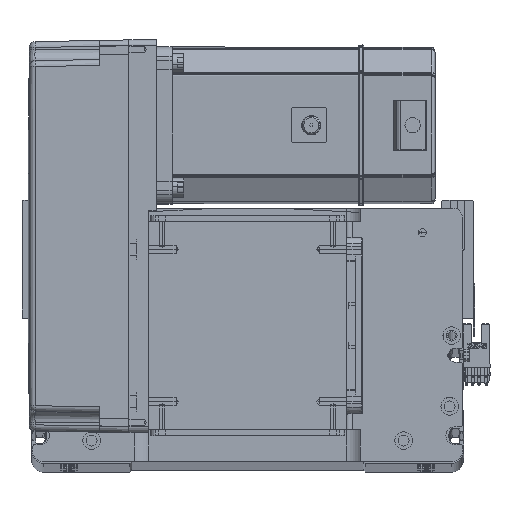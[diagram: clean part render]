
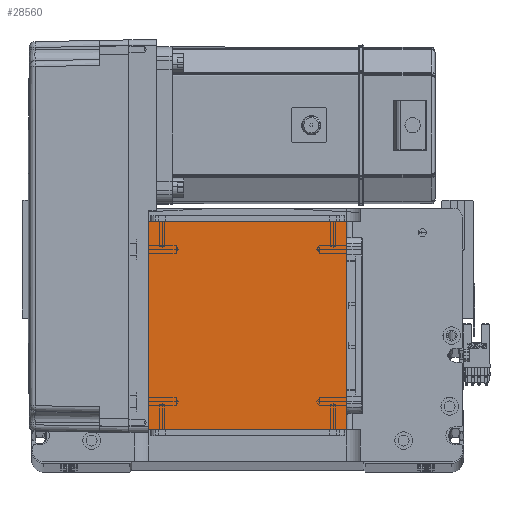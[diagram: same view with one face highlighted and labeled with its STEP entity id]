
A CAD part, top view. The second image highlights one B-rep face of the part: STEP entity #28560.
In plain terms, the highlighted planar face has unit normal (0, 0, 1).
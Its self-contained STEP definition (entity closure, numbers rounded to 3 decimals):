
#23 = DIRECTION ( 'NONE',  ( 0., 1., 0. ) ) ;
#2967 = CARTESIAN_POINT ( 'NONE',  ( -50.5, 122., 115. ) ) ;
#3171 = CARTESIAN_POINT ( 'NONE',  ( -50.5, 16., 115. ) ) ;
#3443 = VECTOR ( 'NONE', #38490, 1000. ) ;
#5118 = DIRECTION ( 'NONE',  ( 1., 0., 0. ) ) ;
#5154 = VECTOR ( 'NONE', #23, 1000. ) ;
#5187 = ORIENTED_EDGE ( 'NONE', *, *, #21602, .T. ) ;
#6454 = CARTESIAN_POINT ( 'NONE',  ( 50.5, 16., 115. ) ) ;
#6608 = VERTEX_POINT ( 'NONE', #31298 ) ;
#8080 = CARTESIAN_POINT ( 'NONE',  ( -50.5, 122., 115. ) ) ;
#10744 = CARTESIAN_POINT ( 'NONE',  ( 0., 0., 115. ) ) ;
#11553 = VERTEX_POINT ( 'NONE', #3171 ) ;
#13328 = LINE ( 'NONE', #24448, #36904 ) ;
#15036 = EDGE_CURVE ( 'NONE', #11553, #17451, #13328, .T. ) ;
#15740 = DIRECTION ( 'NONE',  ( 1., 0., 0. ) ) ;
#17365 = LINE ( 'NONE', #2967, #3443 ) ;
#17451 = VERTEX_POINT ( 'NONE', #6454 ) ;
#19100 = FACE_OUTER_BOUND ( 'NONE', #23250, .T. ) ;
#21602 = EDGE_CURVE ( 'NONE', #6608, #11553, #17365, .T. ) ;
#23250 = EDGE_LOOP ( 'NONE', ( #5187, #40889, #48965, #45390 ) ) ;
#24138 = DIRECTION ( 'NONE',  ( 0., 0., 1. ) ) ;
#24448 = CARTESIAN_POINT ( 'NONE',  ( -50.5, 16., 115. ) ) ;
#25338 = VERTEX_POINT ( 'NONE', #39733 ) ;
#26621 = CARTESIAN_POINT ( 'NONE',  ( 50.5, 122., 115. ) ) ;
#28396 = LINE ( 'NONE', #8080, #49961 ) ;
#28560 = ADVANCED_FACE ( 'NONE', ( #19100 ), #41760, .T. ) ;
#31298 = CARTESIAN_POINT ( 'NONE',  ( -50.5, 122., 115. ) ) ;
#33073 = AXIS2_PLACEMENT_3D ( 'NONE', #10744, #24138, #5118 ) ;
#36393 = LINE ( 'NONE', #26621, #5154 ) ;
#36904 = VECTOR ( 'NONE', #15740, 1000. ) ;
#38490 = DIRECTION ( 'NONE',  ( 0., -1., 0. ) ) ;
#39733 = CARTESIAN_POINT ( 'NONE',  ( 50.5, 122., 115. ) ) ;
#40889 = ORIENTED_EDGE ( 'NONE', *, *, #15036, .T. ) ;
#41760 = PLANE ( 'NONE',  #33073 ) ;
#45390 = ORIENTED_EDGE ( 'NONE', *, *, #48972, .T. ) ;
#48965 = ORIENTED_EDGE ( 'NONE', *, *, #57569, .T. ) ;
#48972 = EDGE_CURVE ( 'NONE', #25338, #6608, #28396, .T. ) ;
#49961 = VECTOR ( 'NONE', #56965, 1000. ) ;
#56965 = DIRECTION ( 'NONE',  ( -1., 0., 0. ) ) ;
#57569 = EDGE_CURVE ( 'NONE', #17451, #25338, #36393, .T. ) ;
